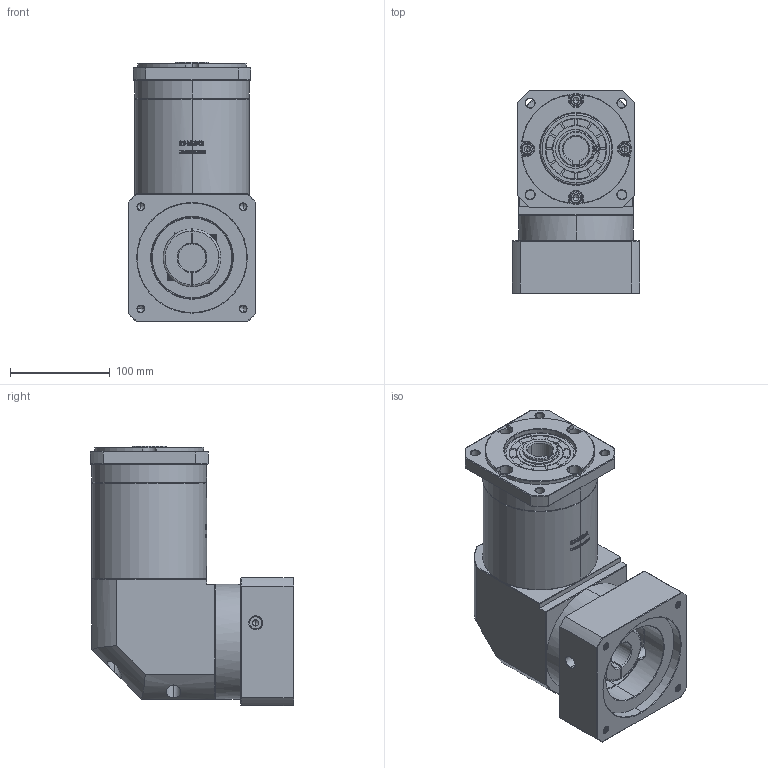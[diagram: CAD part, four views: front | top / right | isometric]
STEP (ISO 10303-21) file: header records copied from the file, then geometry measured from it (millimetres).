
FILE_DESCRIPTION (( 'STEP AP214' ), '1' );
FILE_NAME ('ZFR120A-K25-L3-28-110-145-M8.step', '2023-03-08T08:34:22', ( '' ), ( '' ), 'SwSTEP 2.0', 'SolidWorks 2016', '' );
FILE_SCHEMA (( 'AUTOMOTIVE_DESIGN' ));
Length unit declared in the file: millimetre
Products named in the file (1): ZFR120A-K25-L3-28-110-145-M8
Bounding box: 128 x 203.9 x 260 mm (x, y, z)
Volume: 3631520.2 mm3; surface area: 277114.7 mm2
Topology: 6 solids, 6 shells, 2816 faces, 7527 edges, 4853 vertices
Faces by surface type: plane 1478, bspline 598, cylinder 401, cone 331, torus 8
Entity records: 152468 total; most frequent: CARTESIAN_POINT 56861, ORIENTED_EDGE 14998, DIRECTION 10918, EDGE_CURVE 7499, VERTEX_POINT 4853, VECTOR 4700, LINE 4700, AXIS2_PLACEMENT_3D 3109
